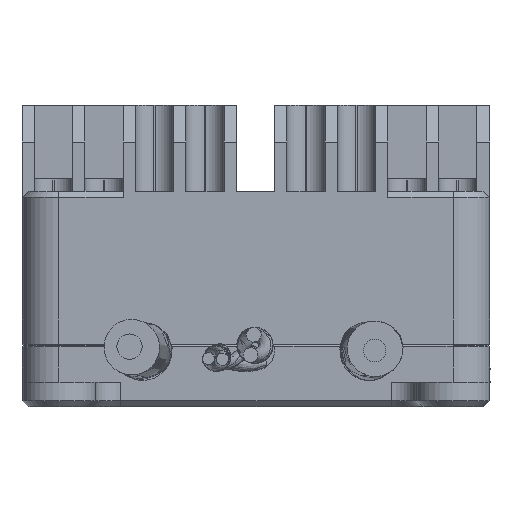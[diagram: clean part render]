
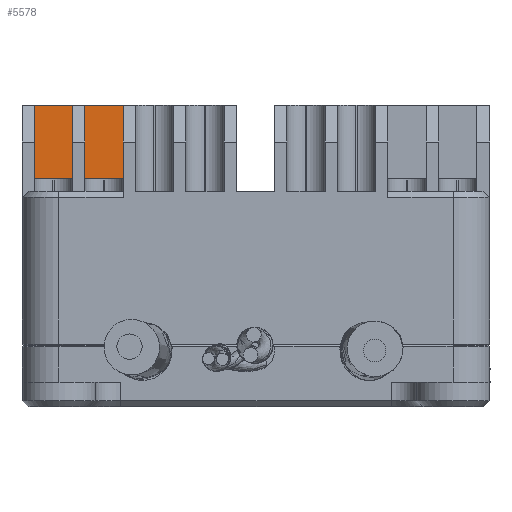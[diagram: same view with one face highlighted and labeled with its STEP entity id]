
A CAD part, left-side view. The second image highlights one B-rep face of the part: STEP entity #5578.
In plain terms, the highlighted planar face has unit normal (-1, 0, 0).
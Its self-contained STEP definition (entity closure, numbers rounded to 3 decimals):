
#134 = CARTESIAN_POINT ( 'NONE',  ( -4.602, 68.229, 44.115 ) ) ;
#626 = ORIENTED_EDGE ( 'NONE', *, *, #21587, .F. ) ;
#1415 = CARTESIAN_POINT ( 'NONE',  ( -4.602, 49.388, 44.115 ) ) ;
#1478 = ORIENTED_EDGE ( 'NONE', *, *, #15830, .F. ) ;
#2670 = DIRECTION ( 'NONE',  ( 0., 1., 0. ) ) ;
#3146 = VECTOR ( 'NONE', #20278, 1000. ) ;
#3836 = DIRECTION ( 'NONE',  ( 0., 1., 0. ) ) ;
#4482 = PLANE ( 'NONE',  #26219 ) ;
#5262 = CARTESIAN_POINT ( 'NONE',  ( -4.602, 68.229, 38.115 ) ) ;
#5436 = EDGE_CURVE ( 'NONE', #24989, #8250, #19861, .T. ) ;
#5578 = ADVANCED_FACE ( 'NONE', ( #29679 ), #4482, .F. ) ;
#5720 = CARTESIAN_POINT ( 'NONE',  ( -4.602, 59.029, 44.115 ) ) ;
#6268 = ORIENTED_EDGE ( 'NONE', *, *, #23766, .T. ) ;
#6404 = VECTOR ( 'NONE', #3836, 1000. ) ;
#8250 = VERTEX_POINT ( 'NONE', #19490 ) ;
#8800 = DIRECTION ( 'NONE',  ( 0., 0., -1. ) ) ;
#10514 = CARTESIAN_POINT ( 'NONE',  ( -4.602, 72.345, 38.115 ) ) ;
#10899 = VERTEX_POINT ( 'NONE', #5720 ) ;
#15564 = LINE ( 'NONE', #20250, #17243 ) ;
#15790 = CARTESIAN_POINT ( 'NONE',  ( -4.602, 72.345, -12.603 ) ) ;
#15830 = EDGE_CURVE ( 'NONE', #10899, #8250, #15564, .T. ) ;
#17243 = VECTOR ( 'NONE', #8800, 1000. ) ;
#17850 = CARTESIAN_POINT ( 'NONE',  ( -4.602, 68.229, -16.377 ) ) ;
#19490 = CARTESIAN_POINT ( 'NONE',  ( -4.602, 59.029, 38.115 ) ) ;
#19515 = LINE ( 'NONE', #1415, #6404 ) ;
#19861 = LINE ( 'NONE', #10514, #22388 ) ;
#20129 = LINE ( 'NONE', #17850, #3146 ) ;
#20250 = CARTESIAN_POINT ( 'NONE',  ( -4.602, 59.029, 44.115 ) ) ;
#20278 = DIRECTION ( 'NONE',  ( 0., 0., 1. ) ) ;
#21587 = EDGE_CURVE ( 'NONE', #24989, #24873, #20129, .T. ) ;
#22388 = VECTOR ( 'NONE', #24397, 1000. ) ;
#23171 = DIRECTION ( 'NONE',  ( 1., 0., 0. ) ) ;
#23766 = EDGE_CURVE ( 'NONE', #10899, #24873, #19515, .T. ) ;
#24397 = DIRECTION ( 'NONE',  ( 0., -1., 0. ) ) ;
#24873 = VERTEX_POINT ( 'NONE', #134 ) ;
#24989 = VERTEX_POINT ( 'NONE', #5262 ) ;
#26219 = AXIS2_PLACEMENT_3D ( 'NONE', #15790, #23171, #2670 ) ;
#27807 = EDGE_LOOP ( 'NONE', ( #6268, #626, #29531, #1478 ) ) ;
#29531 = ORIENTED_EDGE ( 'NONE', *, *, #5436, .T. ) ;
#29679 = FACE_OUTER_BOUND ( 'NONE', #27807, .T. ) ;
